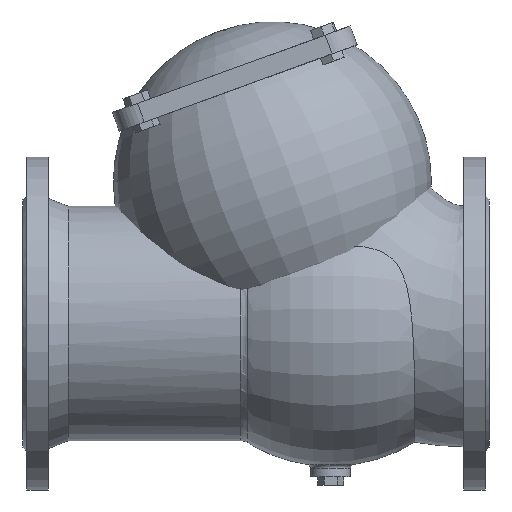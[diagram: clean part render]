
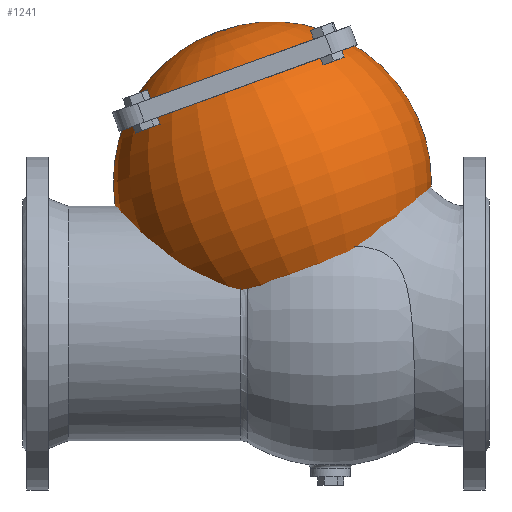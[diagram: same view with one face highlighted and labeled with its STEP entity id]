
A CAD part, front view. The second image highlights one B-rep face of the part: STEP entity #1241.
In plain terms, the highlighted toroidal (fillet/blend) face has major radius 0.626 mm and minor radius 120 mm.
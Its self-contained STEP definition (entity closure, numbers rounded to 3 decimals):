
#1241=ADVANCED_FACE('',(#4274),#4276,.T.);
#4274=FACE_OUTER_BOUND('',#4275,.T.);
#4275=EDGE_LOOP('',(#5402));
#4276=DEGENERATE_TOROIDAL_SURFACE('',#4277,0.626,120.,.T.);
#4277=AXIS2_PLACEMENT_3D('',#4278,#4279,#4280);
#4278=CARTESIAN_POINT('',(21.259,0.,106.387));
#4279=DIRECTION('',(0.342,0.,-0.94));
#4280=DIRECTION('',(-0.94,0.,-0.342));
#5402=ORIENTED_EDGE('',*,*,#5777,.T.);
#5777=EDGE_CURVE('',#6358,#6358,#6359,.F.);
#6358=VERTEX_POINT('',#9300);
#6359=CIRCLE('',#9301,80.);
#9300=CARTESIAN_POINT('',(-84.698,0.,163.596));
#9301=AXIS2_PLACEMENT_3D('',#9302,#9303,#9304);
#9302=CARTESIAN_POINT('',(-9.522,0.,190.958));
#9303=DIRECTION('',(0.342,0.,-0.94));
#9304=DIRECTION('',(-0.94,0.,-0.342));
